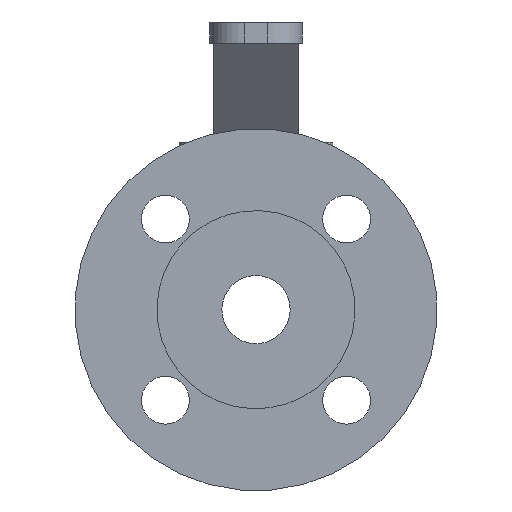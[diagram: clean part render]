
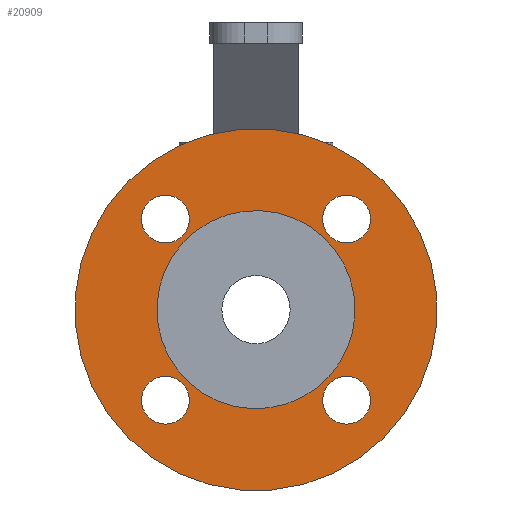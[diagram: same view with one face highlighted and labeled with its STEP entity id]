
A CAD part, left-side view. The second image highlights one B-rep face of the part: STEP entity #20909.
In plain terms, the highlighted planar face has unit normal (-1, 0, 0).
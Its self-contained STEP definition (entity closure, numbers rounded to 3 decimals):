
#20909=ADVANCED_FACE('',(#37367,#37369,#37371,#37373,#37375,#37377),#37379,.F.);
#37367=FACE_BOUND('',#37368,.T.);
#37368=EDGE_LOOP('',(#51044));
#37369=FACE_BOUND('',#37370,.T.);
#37370=EDGE_LOOP('',(#51045));
#37371=FACE_BOUND('',#37372,.T.);
#37372=EDGE_LOOP('',(#51046));
#37373=FACE_BOUND('',#37374,.T.);
#37374=EDGE_LOOP('',(#51047));
#37375=FACE_BOUND('',#37376,.T.);
#37376=EDGE_LOOP('',(#51048));
#37377=FACE_BOUND('',#37378,.T.);
#37378=EDGE_LOOP('',(#51049));
#37379=PLANE('',#37380);
#37380=AXIS2_PLACEMENT_3D('',#37381,#37382,#37383);
#37381=CARTESIAN_POINT('',(8148.861,1165.853,-25.456));
#37382=DIRECTION('',(1.,0.,0.));
#37383=DIRECTION('',(0.,0.,-1.));
#51044=ORIENTED_EDGE('',*,*,#57918,.T.);
#51045=ORIENTED_EDGE('',*,*,#57820,.T.);
#51046=ORIENTED_EDGE('',*,*,#57824,.T.);
#51047=ORIENTED_EDGE('',*,*,#57828,.T.);
#51048=ORIENTED_EDGE('',*,*,#57921,.F.);
#51049=ORIENTED_EDGE('',*,*,#57816,.T.);
#57816=EDGE_CURVE('',#69019,#69019,#69020,.T.);
#57820=EDGE_CURVE('',#69027,#69027,#69028,.T.);
#57824=EDGE_CURVE('',#69035,#69035,#69036,.T.);
#57828=EDGE_CURVE('',#69043,#69043,#69044,.T.);
#57918=EDGE_CURVE('',#69190,#69190,#69191,.T.);
#57921=EDGE_CURVE('',#69196,#69196,#69197,.T.);
#69019=VERTEX_POINT('',#93726);
#69020=CIRCLE('',#93727,7.);
#69027=VERTEX_POINT('',#93746);
#69028=CIRCLE('',#93747,7.);
#69035=VERTEX_POINT('',#93766);
#69036=CIRCLE('',#93767,7.);
#69043=VERTEX_POINT('',#93786);
#69044=CIRCLE('',#93787,7.);
#69190=VERTEX_POINT('',#94731);
#69191=CIRCLE('',#94732,53.);
#69196=VERTEX_POINT('',#94746);
#69197=CIRCLE('',#94747,29.);
#93726=CARTESIAN_POINT('',(8148.861,1173.914,-26.517));
#93727=AXIS2_PLACEMENT_3D('',#93728,#93729,#93730);
#93728=CARTESIAN_POINT('',(8148.861,1166.914,-26.517));
#93729=DIRECTION('',(1.,0.,0.));
#93730=DIRECTION('',(0.,1.,0.));
#93746=CARTESIAN_POINT('',(8148.861,1120.881,26.517));
#93747=AXIS2_PLACEMENT_3D('',#93748,#93749,#93750);
#93748=CARTESIAN_POINT('',(8148.861,1113.881,26.517));
#93749=DIRECTION('',(1.,0.,0.));
#93750=DIRECTION('',(0.,1.,0.));
#93766=CARTESIAN_POINT('',(8148.861,1120.881,-26.517));
#93767=AXIS2_PLACEMENT_3D('',#93768,#93769,#93770);
#93768=CARTESIAN_POINT('',(8148.861,1113.881,-26.517));
#93769=DIRECTION('',(1.,0.,0.));
#93770=DIRECTION('',(0.,1.,0.));
#93786=CARTESIAN_POINT('',(8148.861,1173.914,26.517));
#93787=AXIS2_PLACEMENT_3D('',#93788,#93789,#93790);
#93788=CARTESIAN_POINT('',(8148.861,1166.914,26.517));
#93789=DIRECTION('',(1.,0.,0.));
#93790=DIRECTION('',(0.,1.,0.));
#94731=CARTESIAN_POINT('',(8148.861,1177.874,-37.477));
#94732=AXIS2_PLACEMENT_3D('',#94733,#94734,#94735);
#94733=CARTESIAN_POINT('',(8148.861,1140.397,0.));
#94734=DIRECTION('',(-1.,0.,0.));
#94735=DIRECTION('',(0.,-0.707,0.707));
#94746=CARTESIAN_POINT('',(8148.861,1113.605,-11.098));
#94747=AXIS2_PLACEMENT_3D('',#94748,#94749,#94750);
#94748=CARTESIAN_POINT('',(8148.861,1140.397,0.));
#94749=DIRECTION('',(-1.,0.,0.));
#94750=DIRECTION('',(0.,0.707,-0.707));
